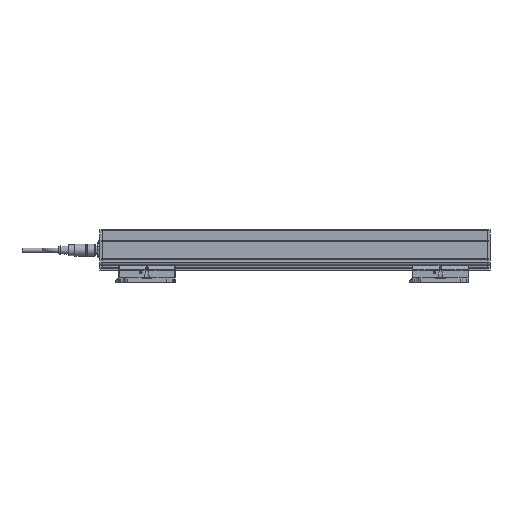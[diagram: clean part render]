
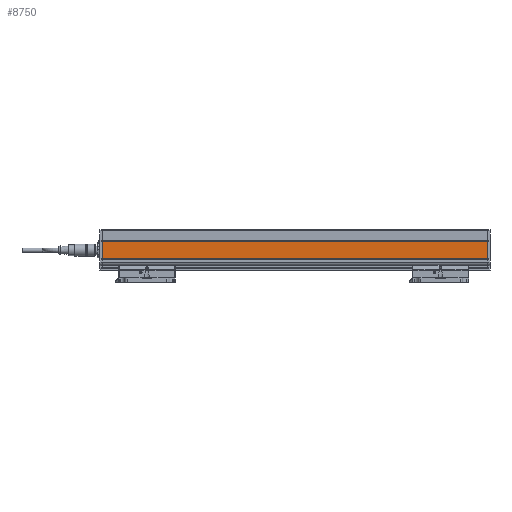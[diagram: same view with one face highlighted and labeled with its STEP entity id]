
A CAD part, front view. The second image highlights one B-rep face of the part: STEP entity #8750.
In plain terms, the highlighted planar face has unit normal (0, -1, 0).
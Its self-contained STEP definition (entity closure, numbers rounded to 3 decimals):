
#8750=ADVANCED_FACE('', (#8760), #8770, .T.);
#79610=AXIS2_PLACEMENT_3D('Ax2Pl3d', #79620, #79630, #79640);
#316190=CARTESIAN_POINT('', (-767.169,-644.87,
344.664));
#316200=CARTESIAN_POINT('', (-767.169,-644.87,
365.637));
#316210=CARTESIAN_POINT('', (-767.169,-644.87,
365.637));
#316470=CARTESIAN_POINT('', (-308.169,-644.87,
365.637));
#316480=CARTESIAN_POINT('', (-308.169,-644.87,
344.664));
#316490=CARTESIAN_POINT('', (-308.169,-644.87,
344.664));
#317240=CARTESIAN_POINT('', (-767.169,-644.87,
344.664));
#79620=CARTESIAN_POINT('HicPkt', (-767.169,-644.87,
344.664));
#317250=CARTESIAN_POINT('', (-767.169,-644.87,
365.637));
#514350=DIRECTION('', (0.,0.,1.));
#514510=DIRECTION('', (0.,0.,-1.));
#514980=DIRECTION('', (-1.,0.,0.));
#79630=DIRECTION('Axis', (0.,-1.,
0.));
#79640=DIRECTION('RefDirection', (0.,
0.,-1.));
#514990=DIRECTION('', (-1.,0.,0.));
#549840=EDGE_CURVE('', #549820, #549850, #549860, .T.);
#550300=EDGE_CURVE('', #550280, #550310, #550320, .T.);
#551640=EDGE_CURVE('', #550310, #549820, #551650, .T.);
#551660=EDGE_CURVE('', #550280, #549850, #551670, .T.);
#657360=EDGE_LOOP('Edge_loop', (#657370,#657380,#657390,#657400));
#8760=FACE_OUTER_BOUND('Face_outer_bound', #657360, .T.);
#549860=LINE('Line', #316200, #762140);
#550320=LINE('Line', #316480, #762300);
#551650=LINE('Line', #317240, #762770);
#551670=LINE('Line', #317250, #762780);
#657370=ORIENTED_EDGE('', *, *, #549840, .F.);
#657380=ORIENTED_EDGE('', *, *, #551640, .F.);
#657390=ORIENTED_EDGE('', *, *, #550300, .F.);
#657400=ORIENTED_EDGE('', *, *, #551660, .T.);
#8770=PLANE('Plane', #79610);
#762140=VECTOR('', #514350, 20.973);
#762300=VECTOR('', #514510, 20.973);
#762770=VECTOR('', #514980, 459.);
#762780=VECTOR('', #514990, 459.);
#549820=VERTEX_POINT('', #316190);
#549850=VERTEX_POINT('', #316210);
#550280=VERTEX_POINT('', #316470);
#550310=VERTEX_POINT('', #316490);
